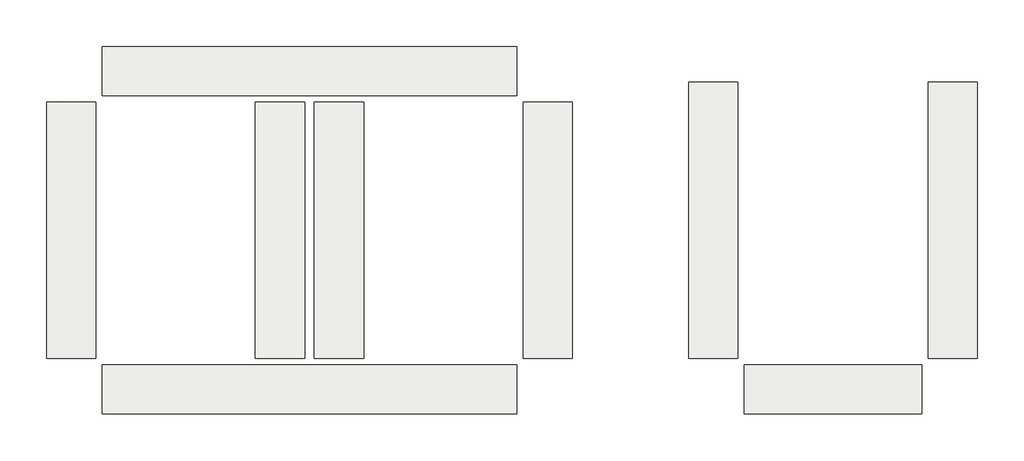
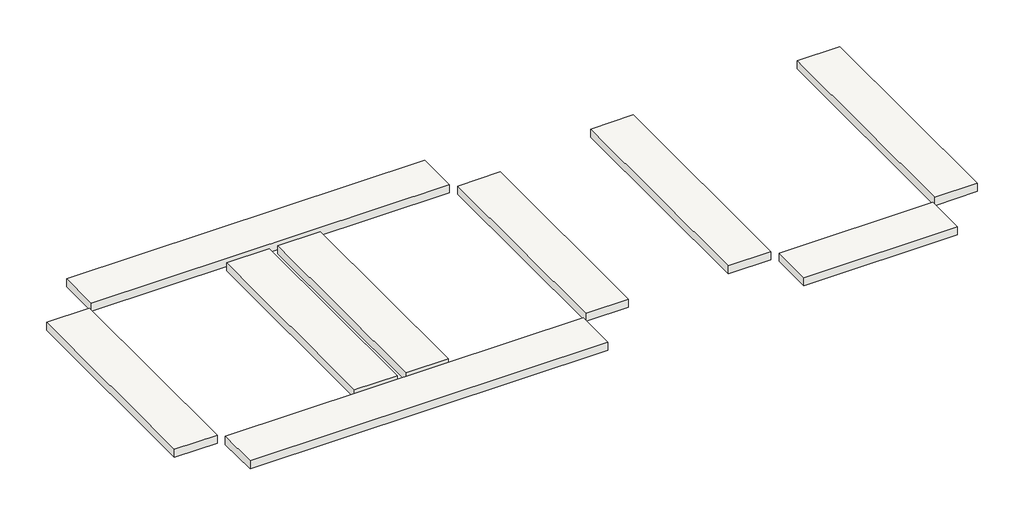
# One storey: 9 slabs.
"""IFC4 building model written with IfcOpenShell, lengths in millimetres."""

from ifc_helpers import new_model, si_unit, frame, origin, place, context, project, spatial, polyline, outline, extrude, element, save

model = new_model("IFC4")

# Units and contexts
model_context = context("Model", 3, world=origin())
ifc_project = project(units=[si_unit("LENGTHUNIT", "METRE", prefix="MILLI")], contexts=[model_context])

# Site, building, storey
site = spatial("IfcSite", under=ifc_project)
building = spatial("IfcBuilding", under=site)
storey = spatial("IfcBuildingStorey", under=building, Name="Mái", Elevation=34200.0)

# Slabs
placement = place(None, origin())
element("IfcSlab", 1, ObjectType="BS-Sàn 200", at=placement, inside=storey, context=model_context, shape_type="SweptSolid", body=[
    extrude(outline(polyline([(0.0, 6325.0), (8400.0, 6325.0), (8400.0, 5325.0), (0.0, 5325.0), (0.0, 6325.0)])), frame((0.0, 0.0, 34000.0), z_axis=(0.0, 0.0, 1.0), x_axis=(1.0, 0.0, 0.0)), (0.0, 0.0, 1.0), 200.0),
])
element("IfcSlab", 2, ObjectType="BS-Sàn 200", at=placement, inside=storey, context=model_context, shape_type="SweptSolid", body=[
    extrude(outline(polyline([(16725.0, 5600.0), (17725.0, 5600.0), (17725.0, 0.0), (16725.0, 0.0), (16725.0, 5600.0)])), frame((0.0, 0.0, 34000.0), z_axis=(0.0, 0.0, 1.0), x_axis=(1.0, 0.0, 0.0)), (0.0, 0.0, 1.0), 200.0),
])
element("IfcSlab", 3, ObjectType="BS-Sàn 200", at=placement, inside=storey, context=model_context, shape_type="SweptSolid", body=[
    extrude(outline(polyline([(11875.0, 5600.0), (12875.0, 5600.0), (12875.0, 0.0), (11875.0, 0.0), (11875.0, 5600.0)])), frame((0.0, 0.0, 34000.0), z_axis=(0.0, 0.0, 1.0), x_axis=(1.0, 0.0, 0.0)), (0.0, 0.0, 1.0), 200.0),
])
element("IfcSlab", 4, ObjectType="BS-Sàn 200", at=placement, inside=storey, context=model_context, shape_type="SweptSolid", body=[
    extrude(outline(polyline([(4300.0, 5200.0), (5300.0, 5200.0), (5300.0, 0.0), (4300.0, 0.0), (4300.0, 5200.0)])), frame((0.0, 0.0, 34000.0), z_axis=(0.0, 0.0, 1.0), x_axis=(1.0, 0.0, 0.0)), (0.0, 0.0, 1.0), 200.0),
])
element("IfcSlab", 5, ObjectType="BS-Sàn 200", at=placement, inside=storey, context=model_context, shape_type="SweptSolid", body=[
    extrude(outline(polyline([(3100.0, 5200.0), (4100.0, 5200.0), (4100.0, 0.0), (3100.0, 0.0), (3100.0, 5200.0)])), frame((0.0, 0.0, 34000.0), z_axis=(0.0, 0.0, 1.0), x_axis=(1.0, 0.0, 0.0)), (0.0, 0.0, 1.0), 200.0),
])
element("IfcSlab", 6, ObjectType="BS-Sàn 200", at=placement, inside=storey, context=model_context, shape_type="SweptSolid", body=[
    extrude(outline(polyline([(8525.0, 5200.0), (9525.0, 5200.0), (9525.0, 0.0), (8525.0, 0.0), (8525.0, 5200.0)])), frame((0.0, 0.0, 34000.0), z_axis=(0.0, 0.0, 1.0), x_axis=(1.0, 0.0, 0.0)), (0.0, 0.0, 1.0), 200.0),
])
element("IfcSlab", 7, ObjectType="BS-Sàn 200", at=placement, inside=storey, context=model_context, shape_type="SweptSolid", body=[
    extrude(outline(polyline([(-1125.0, 5200.0), (-125.0, 5200.0), (-125.0, 0.0), (-1125.0, 0.0), (-1125.0, 5200.0)])), frame((0.0, 0.0, 34000.0), z_axis=(0.0, 0.0, 1.0), x_axis=(1.0, 0.0, 0.0)), (0.0, 0.0, 1.0), 200.0),
])
element("IfcSlab", 8, ObjectType="BS-Sàn 200", at=placement, inside=storey, context=model_context, shape_type="SweptSolid", body=[
    extrude(outline(polyline([(13000.0, -125.0), (16600.0, -125.0), (16600.0, -1125.0), (13000.0, -1125.0), (13000.0, -125.0)])), frame((0.0, 0.0, 34000.0), z_axis=(0.0, 0.0, 1.0), x_axis=(1.0, 0.0, 0.0)), (0.0, 0.0, 1.0), 200.0),
])
element("IfcSlab", 9, ObjectType="BS-Sàn 200", at=placement, inside=storey, context=model_context, shape_type="SweptSolid", body=[
    extrude(outline(polyline([(0.0, -125.0), (8400.0, -125.0), (8400.0, -1125.0), (0.0, -1125.0), (0.0, -125.0)])), frame((0.0, 0.0, 34000.0), z_axis=(0.0, 0.0, 1.0), x_axis=(1.0, 0.0, 0.0)), (0.0, 0.0, 1.0), 200.0),
])

save(model, "model.ifc")
